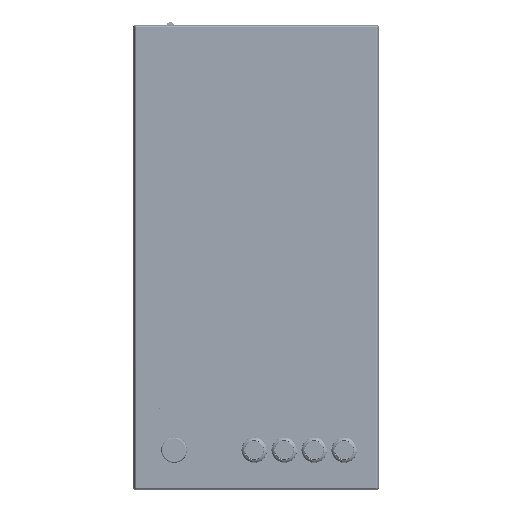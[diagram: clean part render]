
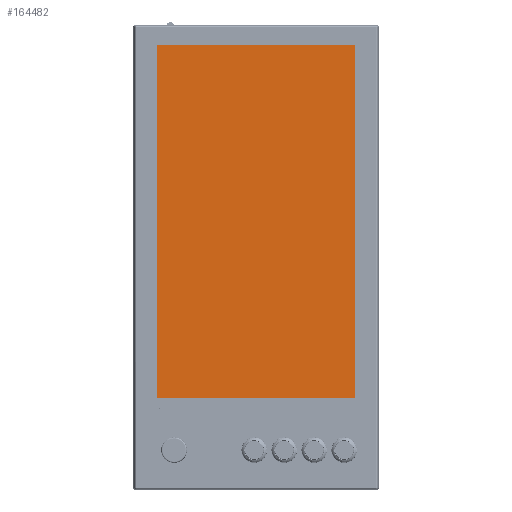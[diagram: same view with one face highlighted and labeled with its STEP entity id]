
A CAD part, top view. The second image highlights one B-rep face of the part: STEP entity #164482.
In plain terms, the highlighted planar face has unit normal (0, 0, 1).
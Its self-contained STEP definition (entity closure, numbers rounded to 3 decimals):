
#13308=LINE($,#275168,#28439);
#13309=LINE($,#275170,#28440);
#13310=LINE($,#275172,#28441);
#13311=LINE($,#275173,#28442);
#28439=VECTOR($,#210542,411.6);
#28440=VECTOR($,#210543,232.2);
#28441=VECTOR($,#210544,411.6);
#28442=VECTOR($,#210545,232.2);
#37717=PLANE($,#176095);
#47321=FACE_OUTER_BOUND($,#57371,.T.);
#57371=EDGE_LOOP($,(#135447,#135448,#135449,#135450));
#76595=VERTEX_POINT($,#275166);
#76596=VERTEX_POINT($,#275167);
#76597=VERTEX_POINT($,#275169);
#76598=VERTEX_POINT($,#275171);
#97026=EDGE_CURVE($,#76595,#76596,#13308,.T.);
#97027=EDGE_CURVE($,#76597,#76595,#13309,.T.);
#97028=EDGE_CURVE($,#76598,#76597,#13310,.T.);
#97029=EDGE_CURVE($,#76596,#76598,#13311,.T.);
#135447=ORIENTED_EDGE($,*,*,#97026,.T.);
#135448=ORIENTED_EDGE($,*,*,#97029,.T.);
#135449=ORIENTED_EDGE($,*,*,#97028,.T.);
#135450=ORIENTED_EDGE($,*,*,#97027,.T.);
#164482=ADVANCED_FACE($,(#47321),#37717,.T.);
#176095=AXIS2_PLACEMENT_3D($,#275273,#210597,#210598);
#210542=DIRECTION($,(0.,1.,0.));
#210543=DIRECTION($,(1.,0.,0.));
#210544=DIRECTION($,(0.,-1.,0.));
#210545=DIRECTION($,(-1.,0.,0.));
#210597=DIRECTION('center_axis',(0.,0.,
1.));
#210598=DIRECTION('ref_axis',(-1.,0.,0.));
#275166=CARTESIAN_POINT('',(116.1,-164.15,-0.2));
#275167=CARTESIAN_POINT('',(116.1,247.45,-0.2));
#275168=CARTESIAN_POINT($,(116.1,144.55,-0.2));
#275169=CARTESIAN_POINT('',(-116.1,-164.15,-0.2));
#275170=CARTESIAN_POINT($,(58.05,-164.15,-0.2));
#275171=CARTESIAN_POINT('',(-116.1,247.45,-0.2));
#275172=CARTESIAN_POINT($,(-116.1,-61.25,-0.2));
#275173=CARTESIAN_POINT($,(-58.05,247.45,-0.2));
#275273=CARTESIAN_POINT('Origin',(0.,41.65,-0.2));
